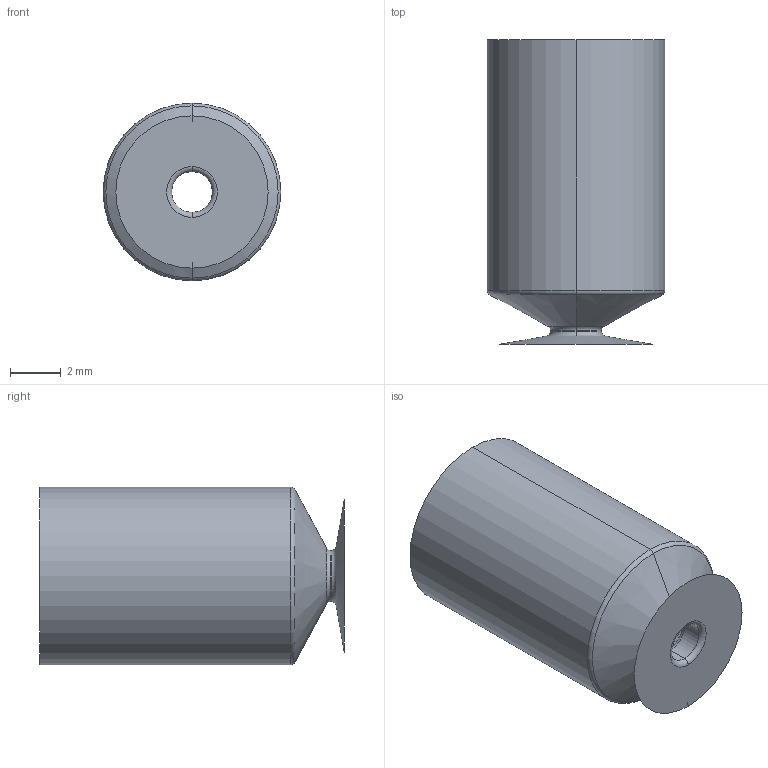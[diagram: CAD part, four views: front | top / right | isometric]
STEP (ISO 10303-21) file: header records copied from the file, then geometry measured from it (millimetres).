
FILE_DESCRIPTION (( 'STEP AP214' ), '1' );
FILE_NAME ('VSR-S6.STEP', '2019-11-18T08:55:18', ( '微软用户' ), ( '微软中国' ), 'SwSTEP 2.0', 'SolidWorks 2016', '' );
FILE_SCHEMA (( 'AUTOMOTIVE_DESIGN' ));
Length unit declared in the file: millimetre
Products named in the file (1): VSR-S6
Bounding box: 7 x 12 x 7 mm (x, y, z)
Volume: 207.6 mm3; surface area: 512.9 mm2
Topology: 1 solids, 1 shells, 28 faces, 56 edges, 30 vertices
Faces by surface type: torus 12, cylinder 8, cone 6, plane 2
Entity records: 764 total; most frequent: DIRECTION 156, CARTESIAN_POINT 115, ORIENTED_EDGE 112, AXIS2_PLACEMENT_3D 71, EDGE_CURVE 56, CIRCLE 42, VERTEX_POINT 30, EDGE_LOOP 30
